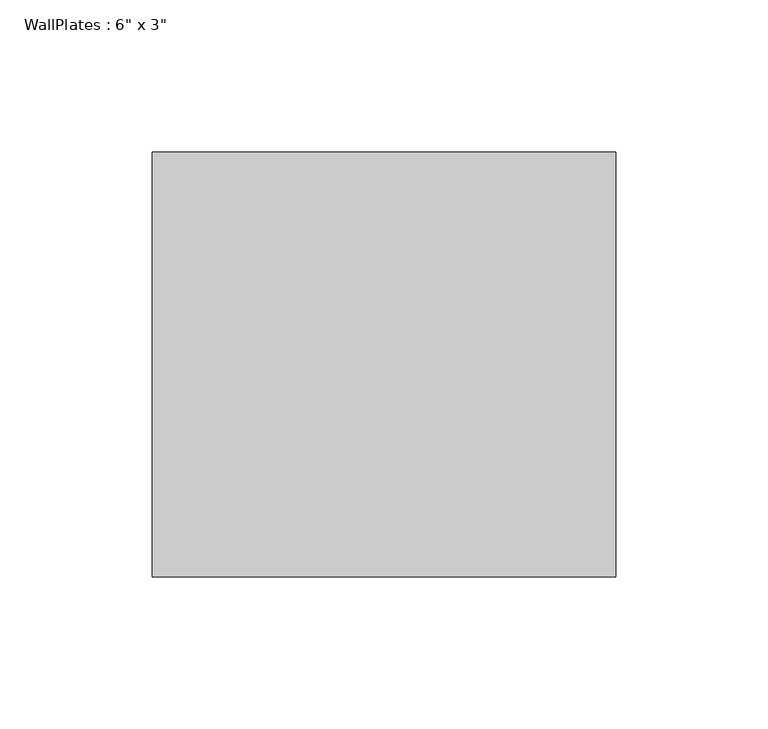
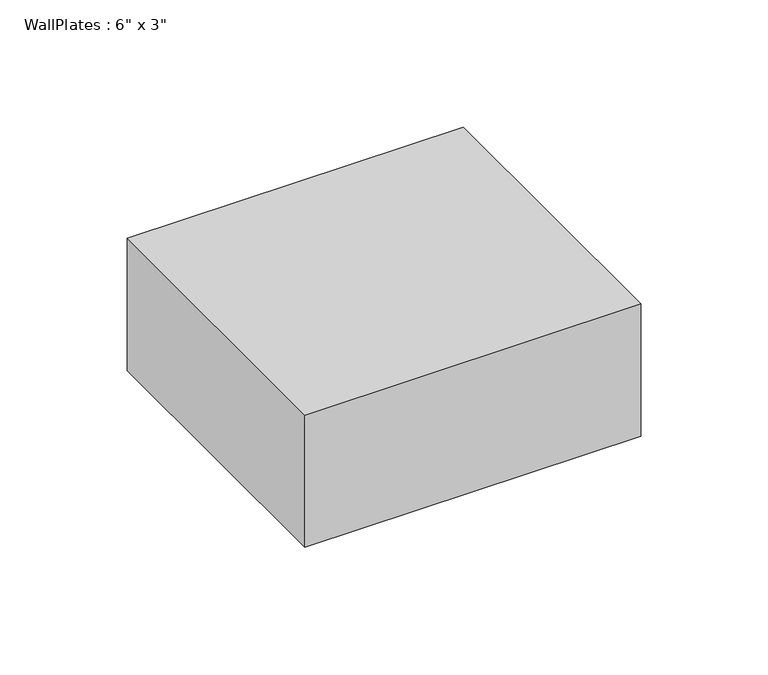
"""IFC4 building model written with IfcOpenShell, lengths in millimetres: beam geometry."""

from ifc_helpers import new_model, si_unit, frame, origin, place, context, project, spatial, polyline, outline, extrude, source, transform, mapped, element, save


def beam_fde2ab11(model_context):
    return source(origin(), model_context, "Body", "SweptSolid", [
        extrude(outline(polyline([(-76.2, -69.85), (-76.2, 69.85), (76.2, 69.85), (76.2, -69.85), (-76.2, -69.85)])), frame((0.0, 0.0, -31.75), z_axis=(0.0, 0.0, 1.0), x_axis=(1.0, 0.0, 0.0)), (0.0, 0.0, 1.0), 63.5),
    ])


if __name__ == "__main__":
    model = new_model("IFC4")
    model_context = context("Model", 3, world=origin())
    ifc_project = project(units=[si_unit("LENGTHUNIT", "METRE", prefix="MILLI")], contexts=[model_context])
    site = spatial("IfcSite", under=ifc_project)
    building = spatial("IfcBuilding", under=site)
    placement = place(None, origin())
    beam_shape = beam_fde2ab11(model_context)
    element("IfcBeam", 1, ObjectType="WallPlates : 6\" x 3\"", at=placement, inside=building, context=model_context, shape_type="MappedRepresentation", body=[
        mapped(beam_shape, transform((0.0, 0.0, 0.0), x_axis=(1.0, 0.0, 0.0), y_axis=(0.0, 1.0, 0.0), z_axis=(0.0, 0.0, 1.0))),
    ])
    save(model, "model.ifc")
